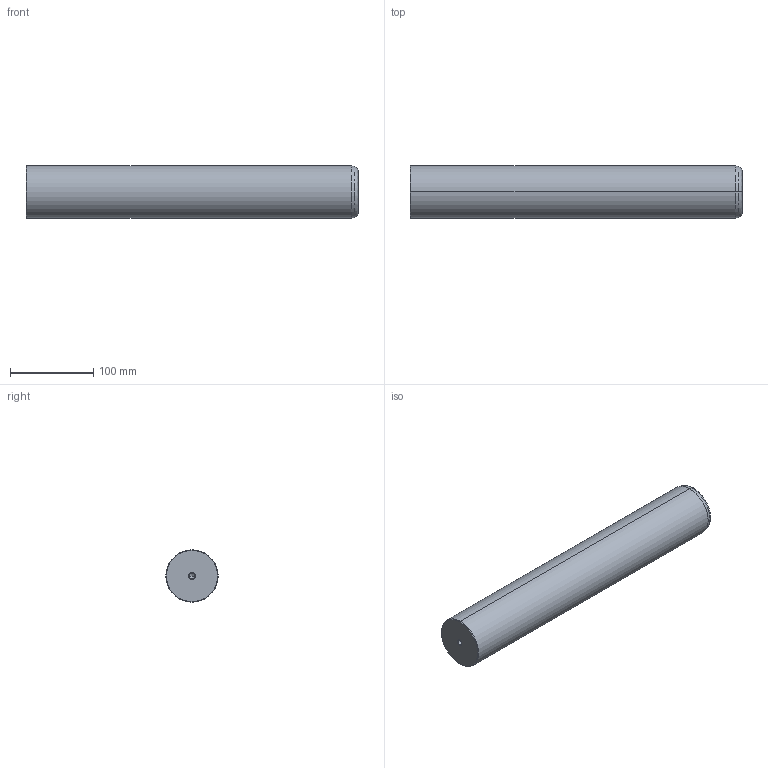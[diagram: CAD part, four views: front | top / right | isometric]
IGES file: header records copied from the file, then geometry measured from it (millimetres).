
Start section: START RECORD GO HERE.
Global section: file name: 720-63x400.igs; native system: DASSAULT SYSTEMES CATIA V5 R20 - www.3ds.com; preprocessor: CATIA Version 5 Release 20 ; author: Utente; organization: NB04-ASUS; date: 20201230.222651; units: millimetre
Bounding box: 400 x 63 x 63 mm (x, y, z)
Surface area: 85690.7 mm2 (no closed solid volume)
Topology: 0 solids, 0 shells, 22 faces, 120 edges, 116 vertices
Faces by surface type: revolution 20, plane 2
